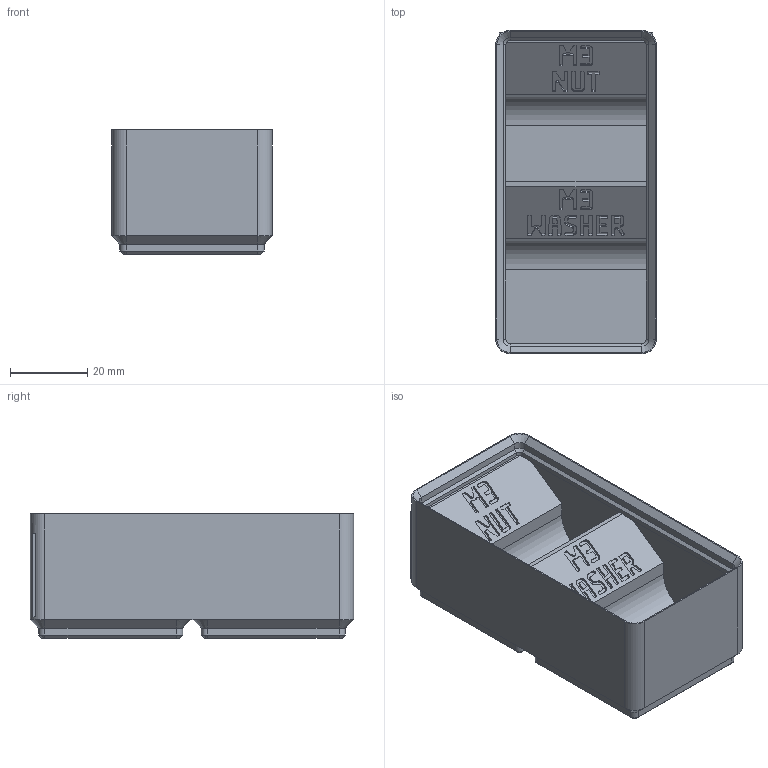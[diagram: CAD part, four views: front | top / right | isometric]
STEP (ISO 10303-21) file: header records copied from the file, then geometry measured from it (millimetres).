
FILE_DESCRIPTION(('Open CASCADE Model'),'2;1');
FILE_NAME('Open CASCADE Shape Model','2026-11-16T17:23:28',('Author'),( 'Open CASCADE'),'Open CASCADE STEP processor 8.0','build123d', 'Unknown');
FILE_SCHEMA(('AUTOMOTIVE_DESIGN { 1 0 10303 214 1 1 1 1 }'));
Products named in the file (1): COMPOUND
Bounding box: 41.5 x 83.5 x 32.1 mm (x, y, z)
Volume: 47218.9 mm3; surface area: 20726.7 mm2
Topology: 1 solids, 1 shells, 1436 faces, 4180 edges, 2766 vertices
Faces by surface type: plane 1384, cone 28, cylinder 24
Entity records: 100550 total; most frequent: CARTESIAN_POINT 17133, DIRECTION 15202, LINE 12144, VECTOR 12144, ORIENTED_EDGE 8360, PCURVE 8360, DEFINITIONAL_REPRESENTATION 8360, EDGE_CURVE 4180
